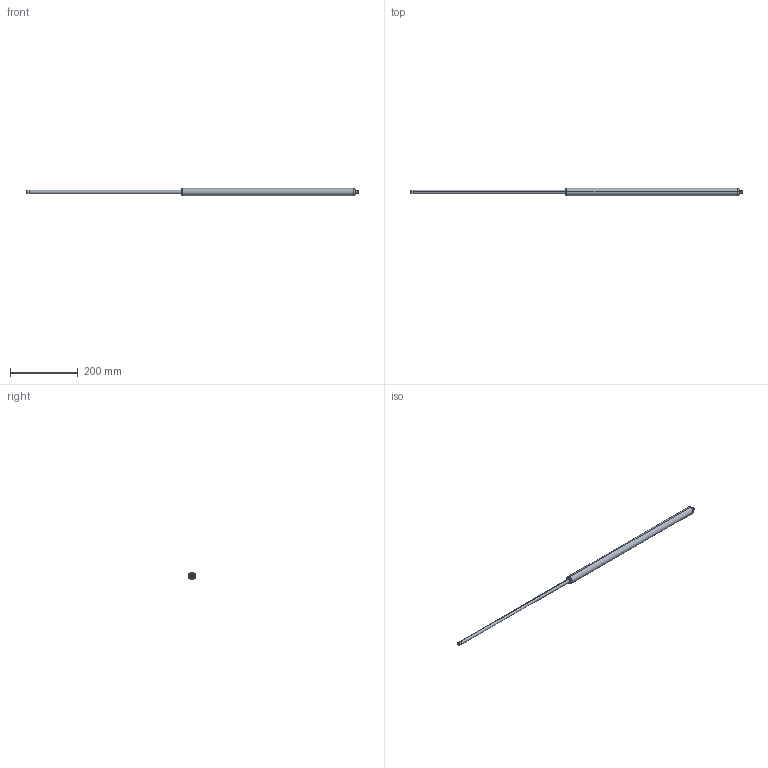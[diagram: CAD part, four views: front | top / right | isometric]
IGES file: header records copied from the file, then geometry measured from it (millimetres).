
Start section: SolidWorks IGES file using analytic representation for surfaces
Bounding box: 981 x 22 x 22 mm (x, y, z)
Surface area: 50586.2 mm2 (no closed solid volume)
Topology: 0 solids, 0 shells, 25 faces, 336 edges, 336 vertices
Faces by surface type: revolution 16, bspline 9
